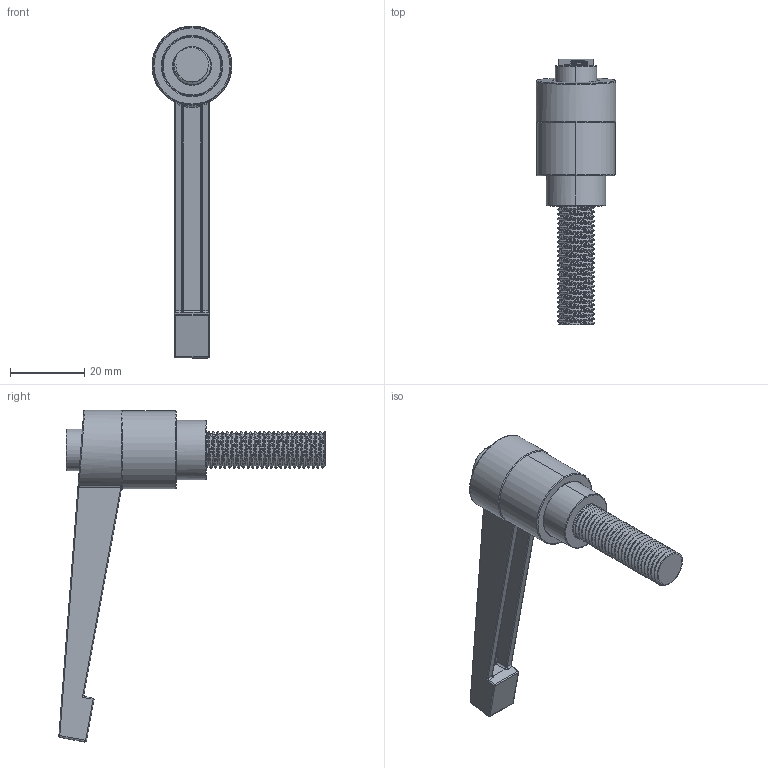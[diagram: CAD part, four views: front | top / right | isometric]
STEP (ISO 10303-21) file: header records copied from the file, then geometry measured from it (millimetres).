
FILE_DESCRIPTION (( 'STEP AP214' ), '1' );
FILE_NAME ('348.0403A.01.STEP', '2024-11-08T10:18:22', ( 'Àëåêñåé' ), ( '' ), 'SwSTEP 2.0', 'SolidWorks 2022', '' );
FILE_SCHEMA (( 'AUTOMOTIVE_DESIGN' ));
Length unit declared in the file: millimetre
Products named in the file (5): 348.0403A.01-3; 348.0403A.01-1; 348.0403A.01; 348.0403A.01-2; 348.0403A.01-4
Assembly tree (4 placements, depth 2):
  348.0403A.01
    348.0403A.01-1
    348.0403A.01-2
    348.0403A.01-3
    348.0403A.01-4
Bounding box: 21.48 x 71.67 x 89.36 mm (x, y, z)
Volume: 15574.6 mm3; surface area: 10493.4 mm2
Topology: 15 solids, 15 shells, 576 faces, 1448 edges, 848 vertices
Faces by surface type: cylinder 201, bspline 161, plane 128, torus 58, sphere 28
Entity records: 33790 total; most frequent: CARTESIAN_POINT 20672, ORIENTED_EDGE 2772, DIRECTION 2067, EDGE_CURVE 1386, VERTEX_POINT 846, AXIS2_PLACEMENT_3D 797, EDGE_LOOP 588, FACE_OUTER_BOUND 576
